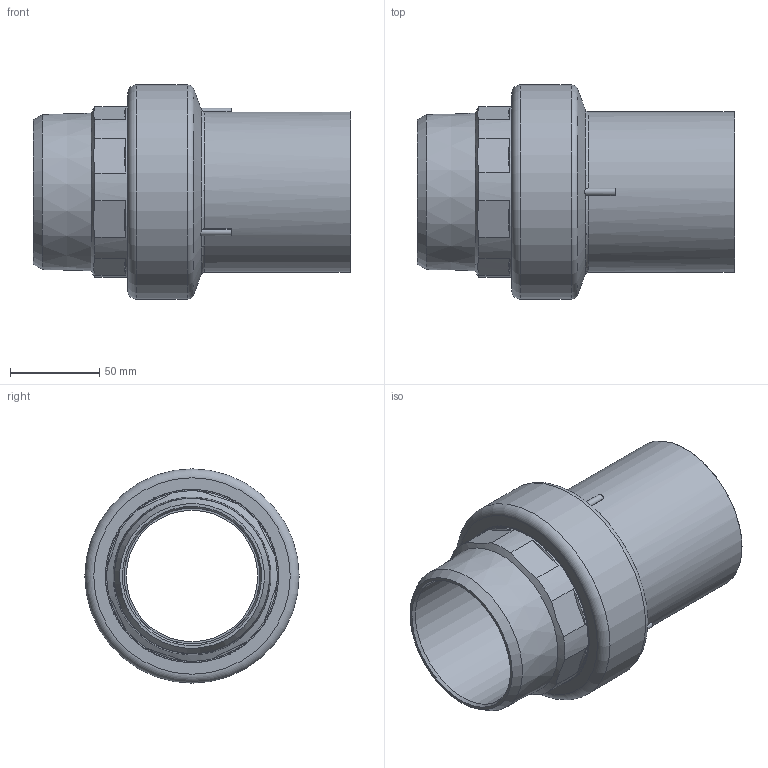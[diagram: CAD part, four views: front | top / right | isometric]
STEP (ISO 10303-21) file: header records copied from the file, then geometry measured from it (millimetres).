
FILE_DESCRIPTION(/* description */ ('Unknown'),/* implementation_level */ '2;1');
FILE_NAME(/* name */ 'RTOMP090C',/* time_stamp */ '2021-03-01T17:38:19+01:00',/* author */ ('Unknown'),/* organization */ ('Unknown'),/* preprocessor_version */ 'ST-DEVELOPER v16.7',/* originating_system */ 'Solid Edge',/* authorisation */ 'Unknown');
FILE_SCHEMA (('AUTOMOTIVE_DESIGN {1 0 10303 214 3 1 1}'));
Length unit declared in the file: millimetre
Products named in the file (3): RTOMP090C; Parte PE 090; IOM090C
Assembly tree (2 placements, depth 2):
  RTOMP090C
    Parte PE 090
    IOM090C
Bounding box: 178 x 120 x 120 mm (x, y, z)
Volume: 544227.1 mm3; surface area: 149244.2 mm2
Topology: 2 solids, 2 shells, 397 faces, 1140 edges, 744 vertices
Faces by surface type: cylinder 185, cone 90, plane 74, torus 19, bspline 15, sphere 14
Full cylindrical faces by diameter (mm): 73.6 x1, 76 x2, 79.5 x2, 84.3 x2, 84.5 x2, 90 x1, 95.5 x1, 98 x2, 104 x4, 120 x1
Entity records: 15306 total; most frequent: CARTESIAN_POINT 4824, ORIENTED_EDGE 2114, DIRECTION 1644, EDGE_CURVE 1057, AXIS2_PLACEMENT_3D 808, VERTEX_POINT 713, B_SPLINE_CURVE_WITH_KNOTS 606, EDGE_LOOP 450
